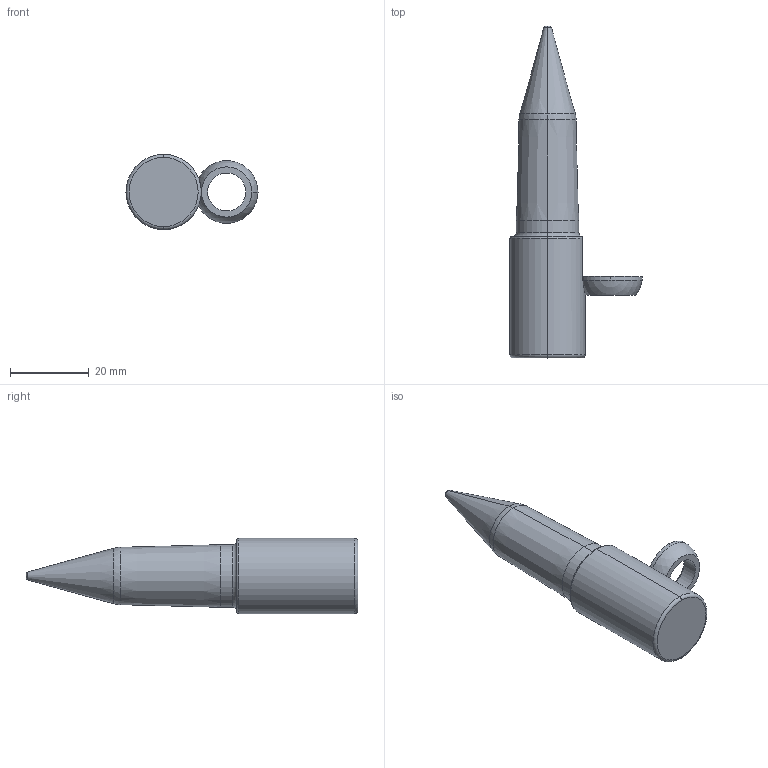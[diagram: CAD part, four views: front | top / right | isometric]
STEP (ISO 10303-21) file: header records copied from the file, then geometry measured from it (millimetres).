
FILE_DESCRIPTION (( 'STEP AP214' ), '1' );
FILE_NAME ('PA-T-.625-.125-1.0-3-A-F1.STEP', '2019-05-08T17:38:52', ( '' ), ( '' ), 'SwSTEP 2.0', 'SolidWorks 2017', '' );
FILE_SCHEMA (( 'AUTOMOTIVE_DESIGN' ));
Length unit declared in the file: inch
Products named in the file (3): SLRadiusWasher_RadiusWasher-E; SLPilot-PA-T-E_PA-T-.625-.125-1.0-3-A-F1; PA-T-.625-.125-1.0-3-A-F1
Assembly tree (2 placements, depth 2):
  PA-T-.625-.125-1.0-3-A-F1
    SLPilot-PA-T-E_PA-T-.625-.125-1.0-3-A-F1
    SLRadiusWasher_RadiusWasher-E
Bounding box: 33.46 x 84.15 x 19.05 mm (x, y, z)
Volume: 16162.7 mm3; surface area: 4778 mm2
Topology: 2 solids, 2 shells, 35 faces, 77 edges, 46 vertices
Faces by surface type: torus 11, cylinder 9, cone 6, plane 5, sphere 4
Entity records: 1168 total; most frequent: CARTESIAN_POINT 234, DIRECTION 208, ORIENTED_EDGE 154, AXIS2_PLACEMENT_3D 96, EDGE_CURVE 77, CIRCLE 56, VERTEX_POINT 46, EDGE_LOOP 37
